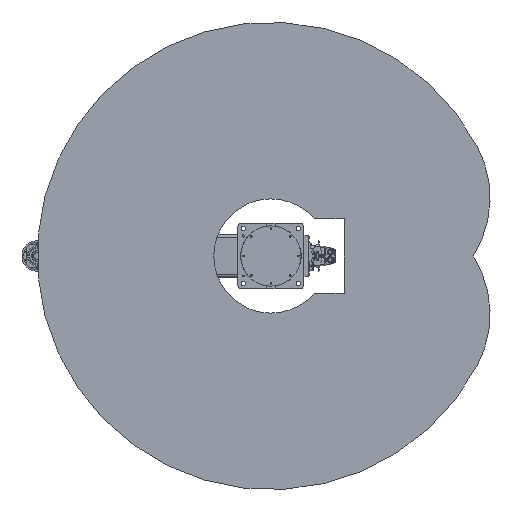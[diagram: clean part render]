
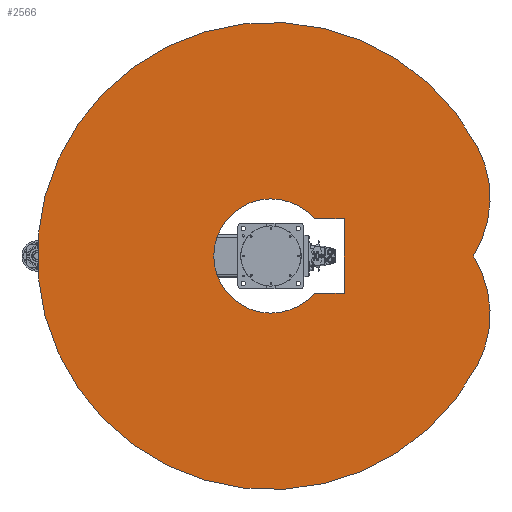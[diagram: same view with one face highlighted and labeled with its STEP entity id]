
A CAD part, front view. The second image highlights one B-rep face of the part: STEP entity #2566.
In plain terms, the highlighted planar face has unit normal (0, -1, 0).
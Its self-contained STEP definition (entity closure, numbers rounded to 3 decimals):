
#2566 = ADVANCED_FACE( '', ( #7425, #7426 ), #7427, .F. );
#7425 = FACE_BOUND( '', #15607, .T. );
#7426 = FACE_OUTER_BOUND( '', #15608, .T. );
#7427 = PLANE( '', #15609 );
#15607 = EDGE_LOOP( '', ( #24873, #24874, #24875, #24876 ) );
#15608 = EDGE_LOOP( '', ( #24877, #24878, #24879 ) );
#15609 = AXIS2_PLACEMENT_3D( '', #24880, #24881, #24882 );
#24873 = ORIENTED_EDGE( '', *, *, #44700, .T. );
#24874 = ORIENTED_EDGE( '', *, *, #44701, .T. );
#24875 = ORIENTED_EDGE( '', *, *, #44702, .T. );
#24876 = ORIENTED_EDGE( '', *, *, #44703, .T. );
#24877 = ORIENTED_EDGE( '', *, *, #44704, .F. );
#24878 = ORIENTED_EDGE( '', *, *, #44705, .F. );
#24879 = ORIENTED_EDGE( '', *, *, #44706, .F. );
#24880 = CARTESIAN_POINT( '', ( 105.631, 0., 198.663 ) );
#24881 = DIRECTION( '', ( 0., 1., 0. ) );
#24882 = DIRECTION( '', ( 0., 0., 1. ) );
#44700 = EDGE_CURVE( '', #52376, #52377, #52378, .T. );
#44701 = EDGE_CURVE( '', #52377, #52379, #52380, .T. );
#44702 = EDGE_CURVE( '', #52379, #52381, #52382, .T. );
#44703 = EDGE_CURVE( '', #52381, #52376, #52383, .T. );
#44704 = EDGE_CURVE( '', #52384, #52385, #52386, .T. );
#44705 = EDGE_CURVE( '', #52387, #52384, #52388, .T. );
#44706 = EDGE_CURVE( '', #52385, #52387, #52389, .T. );
#52376 = VERTEX_POINT( '', #63742 );
#52377 = VERTEX_POINT( '', #63743 );
#52378 = LINE( '', #63744, #63745 );
#52379 = VERTEX_POINT( '', #63746 );
#52380 = CIRCLE( '', #63747, 207.8 );
#52381 = VERTEX_POINT( '', #63748 );
#52382 = LINE( '', #63749, #63750 );
#52383 = LINE( '', #63751, #63752 );
#52384 = VERTEX_POINT( '', #63753 );
#52385 = VERTEX_POINT( '', #63754 );
#52386 = CIRCLE( '', #63755, 400. );
#52387 = VERTEX_POINT( '', #63756 );
#52388 = CIRCLE( '', #63757, 400. );
#52389 = CIRCLE( '', #63758, 850. );
#63742 = CARTESIAN_POINT( '', ( 135., 0., 267. ) );
#63743 = CARTESIAN_POINT( '', ( 135., 0., 157.974 ) );
#63744 = CARTESIAN_POINT( '', ( 135., 0., 267. ) );
#63745 = VECTOR( '', #82695, 1000. );
#63746 = CARTESIAN_POINT( '', ( -135., 0., 157.974 ) );
#63747 = AXIS2_PLACEMENT_3D( '', #82696, #82697, #82698 );
#63748 = CARTESIAN_POINT( '', ( -135., 0., 267. ) );
#63749 = CARTESIAN_POINT( '', ( -135., 0., 157.974 ) );
#63750 = VECTOR( '', #82699, 1000. );
#63751 = CARTESIAN_POINT( '', ( -135., 0., 267. ) );
#63752 = VECTOR( '', #82700, 1000. );
#63753 = CARTESIAN_POINT( '', ( 0., 0., 736.985 ) );
#63754 = CARTESIAN_POINT( '', ( 399.051, 0., 750.505 ) );
#63755 = AXIS2_PLACEMENT_3D( '', #82701, #82702, #82703 );
#63756 = CARTESIAN_POINT( '', ( -399.051, 0., 750.505 ) );
#63757 = AXIS2_PLACEMENT_3D( '', #82704, #82705, #82706 );
#63758 = AXIS2_PLACEMENT_3D( '', #82707, #82708, #82709 );
#82695 = DIRECTION( '', ( 0., 0., -1. ) );
#82696 = CARTESIAN_POINT( '', ( 0., 0., 0. ) );
#82697 = DIRECTION( '', ( 0., 1., 0. ) );
#82698 = DIRECTION( '', ( 1., 0., 0. ) );
#82699 = DIRECTION( '', ( 0., 0., 1. ) );
#82700 = DIRECTION( '', ( 1., 0., 0. ) );
#82701 = CARTESIAN_POINT( '', ( 211.262, 0., 397.326 ) );
#82702 = DIRECTION( '', ( 0., 1., 0. ) );
#82703 = DIRECTION( '', ( 1., 0., 0. ) );
#82704 = CARTESIAN_POINT( '', ( -211.262, 0., 397.326 ) );
#82705 = DIRECTION( '', ( 0., 1., 0. ) );
#82706 = DIRECTION( '', ( 1., 0., 0. ) );
#82707 = CARTESIAN_POINT( '', ( 0., 0., 0. ) );
#82708 = DIRECTION( '', ( 0., 1., 0. ) );
#82709 = DIRECTION( '', ( 1., 0., 0. ) );
